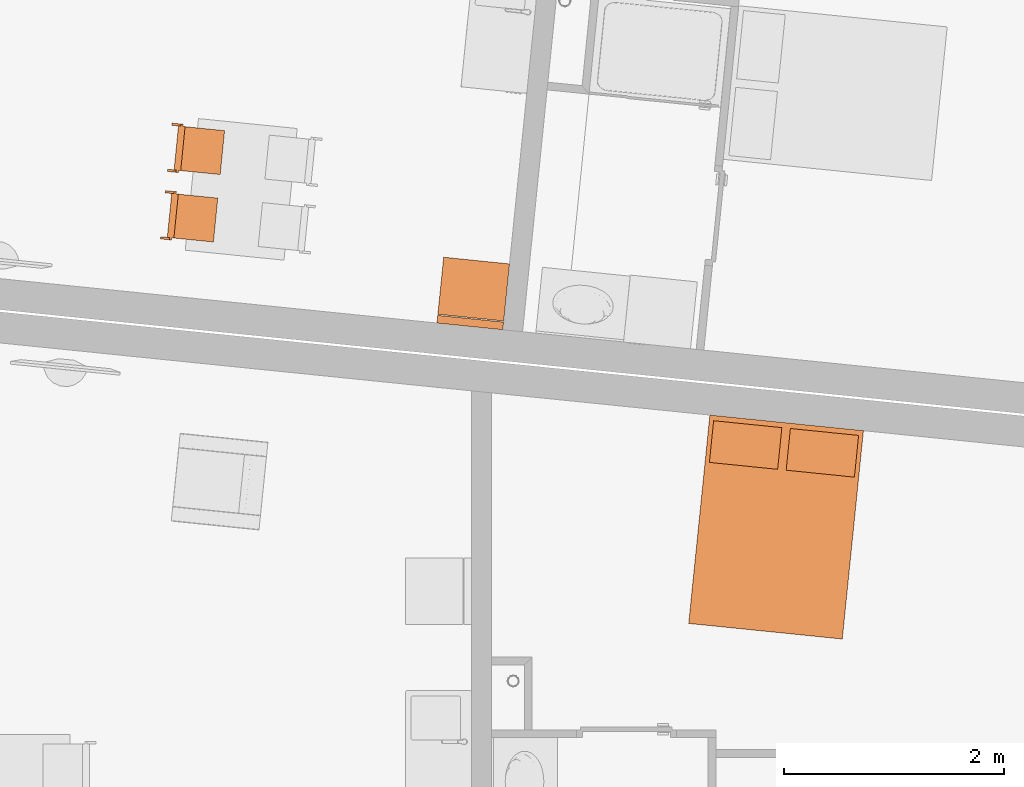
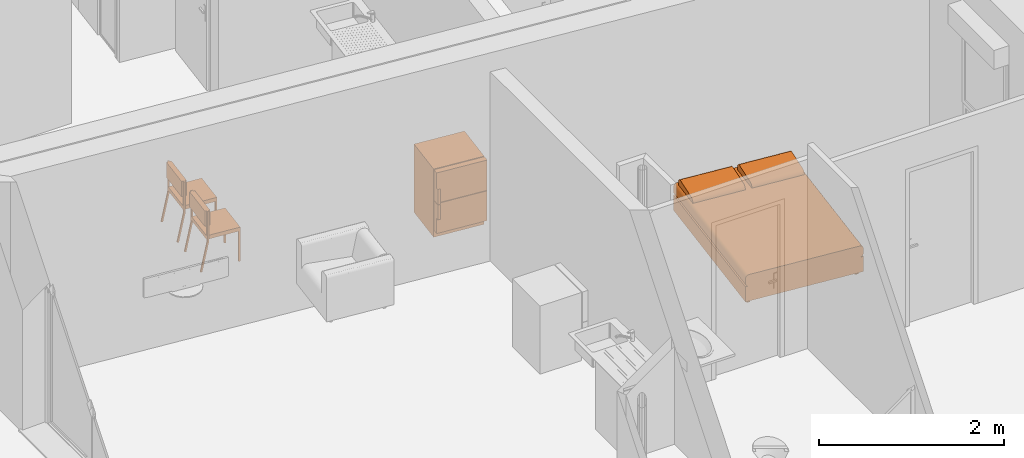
# One storey, part 152 of 164: 4 proxies.
"""IFC2X3 building model written with IfcOpenShell, lengths in millimetres."""

from ifc_helpers import new_model, entity, si_unit, converted_unit, derived_unit, money_unit, direction, frame, origin_with_axes, place, context, subcontext, project, spatial, open_shell, faceted_brep, surface_model, source, transform, mapped, type_object, element, save


model = new_model("IFC2X3")

# Units and contexts
model_context = context("Model", 3, precision=0.01, world=origin_with_axes(), true_north=direction((0.0, 1.0)))
body_context = subcontext(model_context, "Body", "Model", "MODEL_VIEW")
ifc_project = project(units=[si_unit("LENGTHUNIT", "METRE", prefix="MILLI"), si_unit("AREAUNIT", "SQUARE_METRE"), si_unit("VOLUMEUNIT", "CUBIC_METRE"), converted_unit("PLANEANGLEUNIT", "DEGREE", entity("IfcPlaneAngleMeasure", 0.0174532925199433), si_unit("PLANEANGLEUNIT", "RADIAN"), dimensions=[0, 0, 0, 0, 0, 0, 0]), money_unit("USD"), converted_unit("TIMEUNIT", "Year", entity("IfcTimeMeasure", 31557600.0), si_unit("TIMEUNIT", "SECOND"), dimensions=[0, 0, 1, 0, 0, 0, 0]), si_unit("MASSUNIT", "GRAM", prefix="KILO"), si_unit("THERMODYNAMICTEMPERATUREUNIT", "DEGREE_CELSIUS"), si_unit("LUMINOUSINTENSITYUNIT", "LUMEN"), si_unit("ENERGYUNIT", "JOULE", prefix="MEGA"), derived_unit("THERMALCONDUCTANCEUNIT", [(si_unit("POWERUNIT", "WATT"), 1), (si_unit("LENGTHUNIT", "METRE"), -1), (si_unit("THERMODYNAMICTEMPERATUREUNIT", "KELVIN"), -1)]), derived_unit("SPECIFICHEATCAPACITYUNIT", [(si_unit("ENERGYUNIT", "JOULE"), 1), (si_unit("MASSUNIT", "GRAM", prefix="KILO"), -1), (si_unit("THERMODYNAMICTEMPERATUREUNIT", "KELVIN"), -1)]), derived_unit("MASSDENSITYUNIT", [(si_unit("MASSUNIT", "GRAM", prefix="KILO"), 1), (si_unit("VOLUMEUNIT", "CUBIC_METRE"), -1)])], contexts=[model_context])

# Site, building, storey
site_placement = place(None, origin_with_axes())
site = spatial("IfcSite", under=ifc_project, at=site_placement, Name="Site", CompositionType="ELEMENT")
building_placement = place(site_placement, origin_with_axes())
building = spatial("IfcBuilding", under=site, at=building_placement, Name="Bâtiment", CompositionType="ELEMENT")
storey_placement = place(building_placement, frame((0.0, 0.0, 5750.0), z_axis=(0.0, 0.0, 1.0), x_axis=(1.0, 0.0, 0.0)))
storey = spatial("IfcBuildingStorey", under=building, at=storey_placement, Name="Etage1", CompositionType="ELEMENT", Elevation=5750.0)

# Proxies
building_element_proxy_type = type_object("IfcBuildingElementProxyType", PredefinedType="NOTDEFINED")
shared_shape_1 = source(origin_with_axes(), body_context, "Body", "Brep", [
    faceted_brep([(39.99999978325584, 0.0, 0.0), (19.99999989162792, 0.0, 0.0), (19.99999989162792, 19.99999936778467, 0.0), (39.99999978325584, 19.99999936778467, 0.0), (39.99999978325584, 0.0, 400.0), (19.99999989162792, 0.0, 400.0), (19.99999989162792, 19.99999936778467, 400.0), (39.99999978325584, 19.99999936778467, 400.0)], [[[0, 1, 2, 3]], [[1, 0, 4, 5]], [[2, 1, 5, 6]], [[3, 2, 6, 7]], [[0, 3, 7, 4]], [[5, 4, 7, 6]]]),
    faceted_brep([(419.9999977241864, 0.0, 0.0), (399.9999978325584, 0.0, 0.0), (399.9999978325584, 19.99999936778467, 0.0), (419.9999977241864, 19.99999936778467, 0.0), (419.9999977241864, 0.0, 400.0), (399.9999978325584, 0.0, 400.0), (399.9999978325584, 19.99999936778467, 400.0), (419.9999977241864, 19.99999936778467, 400.0)], [[[0, 1, 2, 3]], [[1, 0, 4, 5]], [[2, 1, 5, 6]], [[3, 2, 6, 7]], [[0, 3, 7, 4]], [[5, 4, 7, 6]]]),
    faceted_brep([(399.9999978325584, 0.0, 400.0000000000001), (39.99999978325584, 0.0, 400.0000000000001), (39.99999978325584, 19.99999936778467, 400.0000000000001), (399.9999978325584, 19.99999936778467, 400.0000000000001), (399.9999978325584, 0.0, 420.0000000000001), (39.99999978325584, 0.0, 420.0000000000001), (39.99999978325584, 19.99999936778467, 420.0000000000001), (399.9999978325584, 19.99999936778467, 420.0000000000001)], [[[0, 1, 2, 3]], [[1, 0, 4, 5]], [[2, 1, 5, 6]], [[3, 2, 6, 7]], [[0, 3, 7, 4]], [[5, 4, 7, 6]]]),
    faceted_brep([(39.99999978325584, 19.99999936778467, 400.0000000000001), (19.99999989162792, 19.99999936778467, 400.0000000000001), (19.99999989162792, 379.9999879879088, 400.0000000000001), (39.99999978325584, 379.9999879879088, 400.0000000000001), (39.99999978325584, 19.99999936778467, 420.0000000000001), (19.99999989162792, 19.99999936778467, 420.0000000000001), (19.99999989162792, 379.9999879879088, 420.0000000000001), (39.99999978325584, 379.9999879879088, 420.0000000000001)], [[[0, 1, 2, 3]], [[1, 0, 4, 5]], [[2, 1, 5, 6]], [[3, 2, 6, 7]], [[0, 3, 7, 4]], [[5, 4, 7, 6]]]),
    faceted_brep([(419.9999977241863, 379.9999879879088, 400.0000000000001), (19.99999989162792, 379.9999879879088, 400.0000000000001), (19.99999989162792, 399.9999873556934, 400.0000000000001), (419.9999977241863, 399.9999873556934, 400.0000000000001), (419.9999977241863, 379.9999879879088, 420.0000000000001), (19.99999989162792, 379.9999879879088, 420.0000000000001), (19.99999989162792, 399.9999873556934, 420.0000000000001), (419.9999977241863, 399.9999873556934, 420.0000000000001)], [[[0, 1, 2, 3]], [[1, 0, 4, 5]], [[2, 1, 5, 6]], [[3, 2, 6, 7]], [[0, 3, 7, 4]], [[5, 4, 7, 6]]]),
    faceted_brep([(419.9999977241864, 19.99999936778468, 400.0000000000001), (399.9999978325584, 19.99999936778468, 400.0000000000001), (399.9999978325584, 379.9999879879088, 400.0000000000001), (419.9999977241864, 379.9999879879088, 400.0000000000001), (419.9999977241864, 19.99999936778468, 420.0000000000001), (399.9999978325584, 19.99999936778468, 420.0000000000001), (399.9999978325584, 379.9999879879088, 420.0000000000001), (419.9999977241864, 379.9999879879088, 420.0000000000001)], [[[0, 1, 2, 3]], [[1, 0, 4, 5]], [[2, 1, 5, 6]], [[3, 2, 6, 7]], [[0, 3, 7, 4]], [[5, 4, 7, 6]]]),
    faceted_brep([(419.9999977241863, 0.0, 400.0), (19.99999989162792, 0.0, 400.0), (19.99999989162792, 399.9999873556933, 400.0), (419.9999977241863, 399.9999873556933, 400.0), (419.9999977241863, 0.0, 450.0), (19.99999989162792, 0.0, 450.0), (19.99999989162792, 399.9999873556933, 450.0), (419.9999977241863, 399.9999873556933, 450.0)], [[[0, 1, 2, 3]], [[1, 0, 4, 5]], [[2, 1, 5, 6]], [[3, 2, 6, 7]], [[0, 3, 7, 4]], [[5, 4, 7, 6]]]),
    faceted_brep([(19.99999989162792, 379.9999879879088, 380.0), (0.0, 379.9999879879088, 380.0), (0.0, 399.9999873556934, 380.0), (19.99999989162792, 399.9999873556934, 380.0), (19.99999989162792, 379.9999879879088, 780.0), (0.0, 379.9999879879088, 780.0), (0.0, 399.9999873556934, 780.0), (19.99999989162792, 399.9999873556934, 780.0)], [[[0, 1, 2, 3]], [[1, 0, 4, 5]], [[2, 1, 5, 6]], [[3, 2, 6, 7]], [[0, 3, 7, 4]], [[5, 4, 7, 6]]]),
    faceted_brep([(439.9999976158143, 379.9999879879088, 380.0), (419.9999977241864, 379.9999879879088, 380.0), (419.9999977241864, 399.9999873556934, 380.0), (439.9999976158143, 399.9999873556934, 380.0), (439.9999976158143, 379.9999879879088, 780.0), (419.9999977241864, 379.9999879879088, 780.0), (419.9999977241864, 399.9999873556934, 780.0), (439.9999976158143, 399.9999873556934, 780.0)], [[[0, 1, 2, 3]], [[1, 0, 4, 5]], [[2, 1, 5, 6]], [[3, 2, 6, 7]], [[0, 3, 7, 4]], [[5, 4, 7, 6]]]),
    faceted_brep([(419.9999977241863, 359.999988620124, 580.0000000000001), (19.99999989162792, 359.999988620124, 580.0000000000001), (19.99999989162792, 419.9999867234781, 580.0000000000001), (419.9999977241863, 419.9999867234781, 580.0000000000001), (419.9999977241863, 359.999988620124, 780.0), (19.99999989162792, 359.999988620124, 780.0), (19.99999989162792, 419.9999867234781, 780.0), (419.9999977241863, 419.9999867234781, 780.0)], [[[0, 1, 2, 3]], [[1, 0, 4, 5]], [[2, 1, 5, 6]], [[3, 2, 6, 7]], [[0, 3, 7, 4]], [[5, 4, 7, 6]]]),
    faceted_brep([(19.99999989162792, 459.9999854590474, 0.0), (0.0, 459.9999854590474, 0.0), (0.0, 479.5709559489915, 4.120326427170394), (19.99999989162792, 479.5709559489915, 4.120326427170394), (19.99999989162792, 379.997669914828, 379.999760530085), (0.0, 379.997669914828, 379.999760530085), (0.0, 399.5686404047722, 384.1200869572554), (19.99999989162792, 399.5686404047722, 384.1200869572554)], [[[0, 1, 2, 3]], [[1, 0, 4, 5]], [[2, 1, 5, 6]], [[3, 2, 6, 7]], [[0, 3, 7, 4]], [[5, 4, 7, 6]]]),
    faceted_brep([(439.9999976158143, 459.9999854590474, 0.0), (419.9999977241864, 459.9999854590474, 0.0), (419.9999977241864, 479.5709559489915, 4.120326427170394), (439.9999976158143, 479.5709559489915, 4.120326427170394), (439.9999976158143, 379.997669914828, 379.999760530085), (419.9999977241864, 379.997669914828, 379.999760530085), (419.9999977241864, 399.5686404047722, 384.1200869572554), (439.9999976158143, 399.5686404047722, 384.1200869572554)], [[[0, 1, 2, 3]], [[1, 0, 4, 5]], [[2, 1, 5, 6]], [[3, 2, 6, 7]], [[0, 3, 7, 4]], [[5, 4, 7, 6]]]),
])
for number, where, z_axis, x_axis, name in (
    (1, (2221788.169555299, -620422.5473000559, 0.0), (0.0, 0.0, 1.0), (0.1000048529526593, 0.9949869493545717, 0.0), "Obj.-027"),
    (2, (2221849.685080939, -619810.5055499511, 0.0), (0.0, 0.0, 1.0), (0.1000048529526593, 0.9949869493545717, 0.0), "Obj.-027"),
):
    element("IfcBuildingElementProxy", number, at=place(storey_placement, frame(where, z_axis=z_axis, x_axis=x_axis)), inside=storey, type_object=building_element_proxy_type, Name=name, context=body_context, shape_type="MappedRepresentation", body=[
        mapped(shared_shape_1, transform((0.0, 0.0, 0.0))),
    ])
shared_shape_2 = source(origin_with_axes(), body_context, "Body", "SurfaceModel", [
    faceted_brep([(0.0, 80.0, 100.0), (0.0, 80.0, 900.0), (-600.0, 80.0, 900.0), (-600.0, 80.0, 100.0), (0.0, 600.0, 100.0), (0.0, 600.0, 900.0), (-600.0, 600.0, 900.0), (-600.0, 600.0, 100.0)], [[[0, 1, 2, 3]], [[4, 5, 1, 0]], [[1, 5, 6, 2]], [[3, 2, 6, 7]], [[0, 3, 7, 4]], [[7, 6, 5, 4]]]),
    faceted_brep([(0.0, 80.0, 0.0), (0.0, 80.0, 100.0), (-600.0, 80.0, 100.0), (-600.0, 80.0, 0.0), (0.0, 600.0, 0.0), (0.0, 600.0, 100.0), (-600.0, 600.0, 100.0), (-600.0, 600.0, 0.0)], [[[0, 1, 2, 3]], [[4, 5, 1, 0]], [[1, 5, 6, 2]], [[3, 2, 6, 7]], [[0, 3, 7, 4]], [[7, 6, 5, 4]]]),
    faceted_brep([(0.0, 70.0, 100.0), (0.0, 0.0, 100.0), (-600.0, 0.0, 100.0), (-600.0, 70.0, 100.0), (0.0, 70.00000000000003, 494.0), (0.0, 0.0, 494.0), (-600.0, 0.0, 494.0), (-600.0, 70.00000000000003, 494.0)], [[[0, 1, 2, 3]], [[4, 5, 1, 0]], [[1, 5, 6, 2]], [[3, 2, 6, 7]], [[0, 3, 7, 4]], [[7, 6, 5, 4]]]),
    faceted_brep([(0.0, 70.0, 500.0), (0.0, 0.0, 500.0), (-600.0, 0.0, 500.0), (-600.0, 70.0, 500.0), (0.0, 70.00000000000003, 900.0), (0.0, 0.0, 900.0), (-600.0, 0.0, 900.0), (-600.0, 70.00000000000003, 900.0)], [[[0, 1, 2, 3]], [[4, 5, 1, 0]], [[1, 5, 6, 2]], [[3, 2, 6, 7]], [[0, 3, 7, 4]], [[7, 6, 5, 4]]]),
    surface_model("IfcShellBasedSurfaceModel", [(-600.0, -30.0, 300.0000000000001), (-600.0, 0.0, 300.0000000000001), (-600.0, 0.0, 494.0000000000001), (-600.0, -30.0, 494.0000000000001)], [open_shell([[[0, 1, 2, 3]]])]),
    surface_model("IfcShellBasedSurfaceModel", [(-600.0, -30.0, 300.0000000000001), (-570.0, -30.0, 300.0000000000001), (-570.0, -30.0, 494.0000000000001), (-600.0, -30.0, 494.0000000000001)], [open_shell([[[0, 1, 2, 3]]])]),
    surface_model("IfcShellBasedSurfaceModel", [(-600.0, -30.0, 500.0), (-600.0, 0.0, 500.0), (-600.0, 0.0, 700.0), (-600.0, -30.0, 700.0)], [open_shell([[[0, 1, 2, 3]]])]),
    surface_model("IfcShellBasedSurfaceModel", [(-600.0, -30.0, 500.0), (-570.0, -30.0, 500.0), (-570.0, -30.0, 700.0), (-600.0, -30.0, 700.0)], [open_shell([[[0, 1, 2, 3]]])]),
])
proxy_1_placement = place(storey_placement, frame((2224415.275838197, -621198.6581514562, 0.0), z_axis=(0.0, 0.0, 1.0), x_axis=(0.9948188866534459, -0.1016630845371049, 0.0)))
element("IfcBuildingElementProxy", 3, at=proxy_1_placement, inside=storey, type_object=building_element_proxy_type, Name="Obj.-019", context=body_context, shape_type="MappedRepresentation", body=[
    mapped(shared_shape_2, transform((0.0, 0.0, 0.0))),
])
shared_shape_3 = source(origin_with_axes(), body_context, "Body", "SurfaceModel", [
    faceted_brep([(622.2222222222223, -95.0, 0.0), (622.2222222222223, -47.5, 0.0), (661.1111111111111, -47.5, 0.0), (661.1111111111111, -95.0, 0.0), (622.2222222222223, -95.0, 50.0), (622.2222222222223, -47.5, 50.0), (661.1111111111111, -47.5, 50.0), (661.1111111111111, -95.0, 50.0)], [[[0, 1, 2, 3]], [[0, 4, 5, 1]], [[1, 5, 6, 2]], [[2, 6, 7, 3]], [[3, 7, 4, 0]], [[7, 6, 5, 4]]]),
    faceted_brep([(622.2222222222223, -1852.5, 0.0), (622.2222222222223, -1805.0, 0.0), (661.1111111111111, -1805.0, 0.0), (661.1111111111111, -1852.5, 0.0), (622.2222222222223, -1852.5, 50.0), (622.2222222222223, -1805.0, 50.0), (661.1111111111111, -1805.0, 50.0), (661.1111111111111, -1852.5, 50.0)], [[[0, 1, 2, 3]], [[0, 4, 5, 1]], [[1, 5, 6, 2]], [[2, 6, 7, 3]], [[3, 7, 4, 0]], [[7, 6, 5, 4]]]),
    faceted_brep([(-661.111111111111, -1852.5, 0.0), (-661.111111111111, -1805.0, 0.0), (-622.2222222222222, -1805.0, 0.0), (-622.2222222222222, -1852.5, 0.0), (-661.111111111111, -1852.5, 50.0), (-661.111111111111, -1805.0, 50.0), (-622.2222222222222, -1805.0, 50.0), (-622.2222222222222, -1852.5, 50.0)], [[[0, 1, 2, 3]], [[0, 4, 5, 1]], [[1, 5, 6, 2]], [[2, 6, 7, 3]], [[3, 7, 4, 0]], [[7, 6, 5, 4]]]),
    faceted_brep([(-661.111111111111, -94.99999999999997, 0.0), (-661.111111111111, -47.49999999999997, 0.0), (-622.2222222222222, -47.49999999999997, 0.0), (-622.2222222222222, -94.99999999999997, 0.0), (-661.111111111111, -94.99999999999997, 50.0), (-661.111111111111, -47.49999999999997, 50.0), (-622.2222222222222, -47.49999999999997, 50.0), (-622.2222222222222, -94.99999999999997, 50.0)], [[[0, 1, 2, 3]], [[0, 4, 5, 1]], [[1, 5, 6, 2]], [[2, 6, 7, 3]], [[3, 7, 4, 0]], [[7, 6, 5, 4]]]),
    faceted_brep([(700.0, 0.0, 50.0), (700.0, -1900.0, 50.00000000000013), (-700.0, -1900.0, 50.00000000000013), (-700.0, 0.0, 50.0), (700.0, 0.0, 250.0), (700.0, -1900.0, 250.0000000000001), (-700.0, -1900.0, 250.0000000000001), (-700.0, 0.0, 250.0)], [[[0, 1, 2, 3]], [[4, 5, 1, 0]], [[1, 5, 6, 2]], [[3, 2, 6, 7]], [[0, 3, 7, 4]], [[7, 6, 5, 4]]]),
    surface_model("IfcShellBasedSurfaceModel", [(-661.1111111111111, 0.0, 250.0), (-661.1111111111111, -1900.0, 250.0000000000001), (-667.8640957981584, -1900.0, 250.7596123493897), (-667.8640957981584, 0.0, 250.7596123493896), (661.1111111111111, -1900.0, 250.0000000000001), (667.8640957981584, -1900.0, 250.7596123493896), (674.4118944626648, -1900.0, 253.0153689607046), (680.5555555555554, -1900.0, 256.6987298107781), (686.1084070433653, -1900.0, 261.6977778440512), (690.9017283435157, -1900.0, 267.8606195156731), (694.7898768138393, -1900.0, 275.0000000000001), (697.654713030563, -1900.0, 282.8989928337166), (699.4091903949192, -1900.0, 291.3175911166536), (700.0, -1900.0, 300.0000000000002), (700.0000000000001, -1900.0, 350.0000000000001), (699.4091903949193, -1900.0, 358.6824088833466), (697.654713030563, -1900.0, 367.1010071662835), (694.7898768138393, -1900.0, 375.0000000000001), (690.9017283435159, -1900.0, 382.1393804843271), (686.1084070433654, -1900.0, 388.302222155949), (680.5555555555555, -1900.0, 393.3012701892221), (674.4118944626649, -1900.0, 396.9846310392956), (667.8640957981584, -1900.0, 399.2403876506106), (661.1111111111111, -1900.0, 400.0000000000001), (-661.111111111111, -1900.0, 400.0000000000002), (-667.8640957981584, -1900.0, 399.2403876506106), (-674.4118944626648, -1900.0, 396.9846310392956), (-680.5555555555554, -1900.0, 393.3012701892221), (-686.1084070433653, -1900.0, 388.302222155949), (-690.9017283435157, -1900.0, 382.1393804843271), (-694.7898768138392, -1900.0, 375.0000000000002), (-697.654713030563, -1900.0, 367.1010071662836), (-699.4091903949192, -1900.0, 358.6824088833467), (-700.0, -1900.0, 350.0000000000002), (-700.0, -1900.0, 300.0000000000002), (-699.4091903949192, -1900.0, 291.3175911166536), (-697.654713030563, -1900.0, 282.8989928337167), (-694.7898768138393, -1900.0, 275.0000000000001), (-690.9017283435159, -1900.0, 267.8606195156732), (-686.1084070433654, -1900.0, 261.6977778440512), (-680.5555555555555, -1900.0, 256.6987298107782), (-674.4118944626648, -1900.0, 253.0153689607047), (-674.4118944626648, 0.0, 253.0153689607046), (661.1111111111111, 0.0, 250.0), (-680.5555555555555, 0.0, 256.698729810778), (-686.1084070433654, 0.0, 261.6977778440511), (-690.9017283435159, 0.0, 267.8606195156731), (-694.7898768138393, 0.0, 275.0), (-697.654713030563, 0.0, 282.8989928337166), (-699.4091903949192, 0.0, 291.3175911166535), (-700.0, 0.0, 300.0000000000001), (-700.0, 0.0, 350.0000000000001), (-699.4091903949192, 0.0, 358.6824088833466), (-697.654713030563, 0.0, 367.1010071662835), (-694.7898768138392, 0.0, 375.0000000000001), (-690.9017283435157, 0.0, 382.139380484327), (-686.1084070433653, 0.0, 388.3022221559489), (-680.5555555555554, 0.0, 393.301270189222), (-674.4118944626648, 0.0, 396.9846310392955), (-667.8640957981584, 0.0, 399.2403876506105), (-661.111111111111, 0.0, 400.0000000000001), (661.1111111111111, 0.0, 400.0), (667.8640957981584, 0.0, 399.2403876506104), (674.4118944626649, 0.0, 396.9846310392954), (680.5555555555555, 0.0, 393.301270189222), (686.1084070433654, 0.0, 388.3022221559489), (690.9017283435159, 0.0, 382.139380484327), (694.7898768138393, 0.0, 375.0), (697.654713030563, 0.0, 367.1010071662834), (699.4091903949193, 0.0, 358.6824088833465), (700.0000000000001, 0.0, 350.0), (700.0, 0.0, 300.0000000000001), (699.4091903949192, 0.0, 291.3175911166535), (697.654713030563, 0.0, 282.8989928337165), (694.7898768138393, 0.0, 275.0), (690.9017283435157, 0.0, 267.860619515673), (686.1084070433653, 0.0, 261.6977778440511), (680.5555555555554, 0.0, 256.698729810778), (674.4118944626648, 0.0, 253.0153689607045), (667.8640957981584, 0.0, 250.7596123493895)], [open_shell([[[0, 1, 2, 3]], [[4, 5, 6, 7, 8, 9, 10, 11, 12, 13, 14, 15, 16, 17, 18, 19, 20, 21, 22, 23, 24, 25, 26, 27, 28, 29, 30, 31, 32, 33, 34, 35, 36, 37, 38, 39, 40, 41, 2, 1]], [[3, 2, 41, 42]], [[43, 0, 3, 42, 44, 45, 46, 47, 48, 49, 50, 51, 52, 53, 54, 55, 56, 57, 58, 59, 60, 61, 62, 63, 64, 65, 66, 67, 68, 69, 70, 71, 72, 73, 74, 75, 76, 77, 78, 79]], [[79, 5, 4, 43]], [[78, 6, 5, 79]], [[77, 7, 6, 78]], [[76, 8, 7, 77]], [[75, 9, 8, 76]], [[74, 10, 9, 75]], [[73, 11, 10, 74]], [[72, 12, 11, 73]], [[71, 13, 12, 72]], [[70, 14, 13, 71]], [[69, 15, 14, 70]], [[68, 16, 15, 69]], [[67, 17, 16, 68]], [[66, 18, 17, 67]], [[65, 19, 18, 66]], [[64, 20, 19, 65]], [[63, 21, 20, 64]], [[62, 22, 21, 63]], [[61, 23, 22, 62]], [[60, 24, 23, 61]], [[59, 25, 24, 60]], [[58, 26, 25, 59]], [[57, 27, 26, 58]], [[56, 28, 27, 57]], [[55, 29, 28, 56]], [[54, 30, 29, 55]], [[53, 31, 30, 54]], [[52, 32, 31, 53]], [[51, 33, 32, 52]], [[50, 34, 33, 51]], [[49, 35, 34, 50]], [[48, 36, 35, 49]], [[47, 37, 36, 48]], [[46, 38, 37, 47]], [[45, 39, 38, 46]], [[44, 40, 39, 45]], [[42, 41, 40, 44]]])]),
    faceted_brep([(-38.88888888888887, -47.49999999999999, 400.0), (-661.1111111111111, -47.50000000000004, 400.0000000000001), (-661.1111111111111, -47.50000000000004, 443.4000000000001), (-38.88888888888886, -47.49999999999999, 443.4), (-38.88888888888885, -427.5, 400.0), (-661.1111111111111, -427.5, 400.0000000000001), (-661.1111111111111, -427.6960812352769, 408.6954428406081), (-661.1111111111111, -426.4675711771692, 417.2966661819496), (-661.1111111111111, -423.8511300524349, 425.5469991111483), (-661.1111111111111, -419.924835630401, 433.2002417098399), (-661.1111111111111, -414.8058532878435, 440.0280119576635), (-661.1111111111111, -408.6469396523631, 445.826560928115), (-661.1111111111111, -401.6318841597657, 450.4228529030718), (-661.1111111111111, -393.9700245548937, 453.6797289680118), (-661.1111111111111, -385.89, 455.5000000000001), (-661.1111111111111, -100.8900000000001, 493.0000000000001), (-661.1111111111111, -92.85488048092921, 493.3370808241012), (-661.1111111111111, -84.88093291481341, 492.2422169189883), (-661.1111111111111, -77.19681007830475, 489.7468034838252), (-661.1111111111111, -70.02285403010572, 485.922396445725), (-661.1111111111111, -63.56477780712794, 480.878660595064), (-661.1111111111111, -58.00776660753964, 474.7602249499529), (-661.1111111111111, -53.51116760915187, 467.7425355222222), (-661.1111111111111, -50.20392069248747, 460.0268244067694), (-661.1111111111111, -48.18086109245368, 451.8343394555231), (-38.88888888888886, -48.18086109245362, 451.834339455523), (-38.88888888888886, -50.20392069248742, 460.0268244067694), (-38.88888888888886, -53.51116760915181, 467.7425355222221), (-38.88888888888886, -58.00776660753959, 474.7602249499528), (-38.88888888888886, -63.56477780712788, 480.878660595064), (-38.88888888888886, -70.02285403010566, 485.922396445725), (-38.88888888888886, -77.19681007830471, 489.7468034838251), (-38.88888888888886, -84.88093291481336, 492.2422169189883), (-38.88888888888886, -92.85488048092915, 493.3370808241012), (-38.88888888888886, -100.89, 493.0000000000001), (-38.88888888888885, -385.89, 455.5), (-38.88888888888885, -393.9700245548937, 453.6797289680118), (-38.88888888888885, -401.6318841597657, 450.4228529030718), (-38.88888888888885, -408.6469396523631, 445.826560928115), (-38.88888888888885, -414.8058532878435, 440.0280119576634), (-38.88888888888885, -419.9248356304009, 433.2002417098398), (-38.88888888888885, -423.8511300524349, 425.5469991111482), (-38.88888888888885, -426.4675711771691, 417.2966661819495), (-38.88888888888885, -427.6960812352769, 408.695442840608)], [[[0, 1, 2, 3]], [[4, 5, 1, 0]], [[1, 5, 6, 7, 8, 9, 10, 11, 12, 13, 14, 15, 16, 17, 18, 19, 20, 21, 22, 23, 24, 2]], [[3, 2, 24, 25]], [[0, 3, 25, 26, 27, 28, 29, 30, 31, 32, 33, 34, 35, 36, 37, 38, 39, 40, 41, 42, 43, 4]], [[43, 6, 5, 4]], [[42, 7, 6, 43]], [[41, 8, 7, 42]], [[40, 9, 8, 41]], [[39, 10, 9, 40]], [[38, 11, 10, 39]], [[37, 12, 11, 38]], [[36, 13, 12, 37]], [[35, 14, 13, 36]], [[34, 15, 14, 35]], [[33, 16, 15, 34]], [[32, 17, 16, 33]], [[31, 18, 17, 32]], [[30, 19, 18, 31]], [[29, 20, 19, 30]], [[28, 21, 20, 29]], [[27, 22, 21, 28]], [[26, 23, 22, 27]], [[25, 24, 23, 26]]]),
    faceted_brep([(661.1111111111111, -47.49999999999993, 399.9999999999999), (38.88888888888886, -47.49999999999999, 400.0), (38.88888888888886, -47.49999999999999, 443.4), (661.1111111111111, -47.49999999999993, 443.4), (661.1111111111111, -427.4999999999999, 399.9999999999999), (38.88888888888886, -427.4999999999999, 400.0), (38.88888888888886, -427.6960812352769, 408.695442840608), (38.88888888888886, -426.4675711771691, 417.2966661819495), (38.88888888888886, -423.8511300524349, 425.5469991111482), (38.88888888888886, -419.9248356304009, 433.2002417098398), (38.88888888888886, -414.8058532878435, 440.0280119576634), (38.88888888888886, -408.6469396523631, 445.826560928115), (38.88888888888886, -401.6318841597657, 450.4228529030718), (38.88888888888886, -393.9700245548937, 453.6797289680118), (38.88888888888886, -385.8899999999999, 455.5), (38.88888888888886, -100.89, 493.0000000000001), (38.88888888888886, -92.85488048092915, 493.3370808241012), (38.88888888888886, -84.88093291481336, 492.2422169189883), (38.88888888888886, -77.19681007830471, 489.7468034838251), (38.88888888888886, -70.02285403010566, 485.922396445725), (38.88888888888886, -63.56477780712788, 480.878660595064), (38.88888888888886, -58.00776660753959, 474.7602249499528), (38.88888888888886, -53.51116760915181, 467.7425355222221), (38.88888888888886, -50.20392069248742, 460.0268244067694), (38.88888888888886, -48.18086109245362, 451.834339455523), (661.1111111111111, -48.18086109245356, 451.834339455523), (661.1111111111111, -50.20392069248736, 460.0268244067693), (661.1111111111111, -53.51116760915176, 467.7425355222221), (661.1111111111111, -58.00776660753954, 474.7602249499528), (661.1111111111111, -63.56477780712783, 480.8786605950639), (661.1111111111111, -70.0228540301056, 485.9223964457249), (661.1111111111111, -77.19681007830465, 489.7468034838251), (661.1111111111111, -84.8809329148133, 492.2422169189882), (661.1111111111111, -92.8548804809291, 493.3370808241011), (661.1111111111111, -100.89, 493.0), (661.1111111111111, -385.8899999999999, 455.4999999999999), (661.1111111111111, -393.9700245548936, 453.6797289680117), (661.1111111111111, -401.6318841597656, 450.4228529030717), (661.1111111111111, -408.646939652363, 445.8265609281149), (661.1111111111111, -414.8058532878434, 440.0280119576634), (661.1111111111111, -419.9248356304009, 433.2002417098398), (661.1111111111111, -423.8511300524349, 425.5469991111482), (661.1111111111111, -426.4675711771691, 417.2966661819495), (661.1111111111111, -427.6960812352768, 408.6954428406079)], [[[0, 1, 2, 3]], [[4, 5, 1, 0]], [[1, 5, 6, 7, 8, 9, 10, 11, 12, 13, 14, 15, 16, 17, 18, 19, 20, 21, 22, 23, 24, 2]], [[3, 2, 24, 25]], [[0, 3, 25, 26, 27, 28, 29, 30, 31, 32, 33, 34, 35, 36, 37, 38, 39, 40, 41, 42, 43, 4]], [[43, 6, 5, 4]], [[42, 7, 6, 43]], [[41, 8, 7, 42]], [[40, 9, 8, 41]], [[39, 10, 9, 40]], [[38, 11, 10, 39]], [[37, 12, 11, 38]], [[36, 13, 12, 37]], [[35, 14, 13, 36]], [[34, 15, 14, 35]], [[33, 16, 15, 34]], [[32, 17, 16, 33]], [[31, 18, 17, 32]], [[30, 19, 18, 31]], [[29, 20, 19, 30]], [[28, 21, 20, 29]], [[27, 22, 21, 28]], [[26, 23, 22, 27]], [[25, 24, 23, 26]]]),
])
proxy_2_placement = place(storey_placement, frame((2226990.384747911, -622043.2974885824, 0.0), z_axis=(0.0, 0.0, 1.0), x_axis=(0.9948799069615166, -0.1010641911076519, 0.0)))
element("IfcBuildingElementProxy", 4, at=proxy_2_placement, inside=storey, type_object=building_element_proxy_type, Name="Obj.-003", context=body_context, shape_type="MappedRepresentation", body=[
    mapped(shared_shape_3, transform((0.0, 0.0, 0.0))),
])

save(model, "model.ifc")
